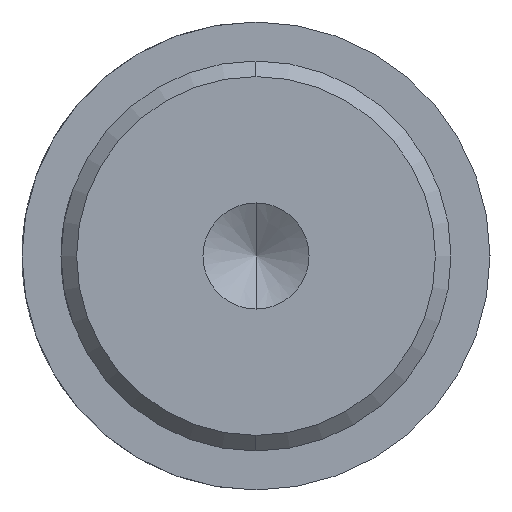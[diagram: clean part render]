
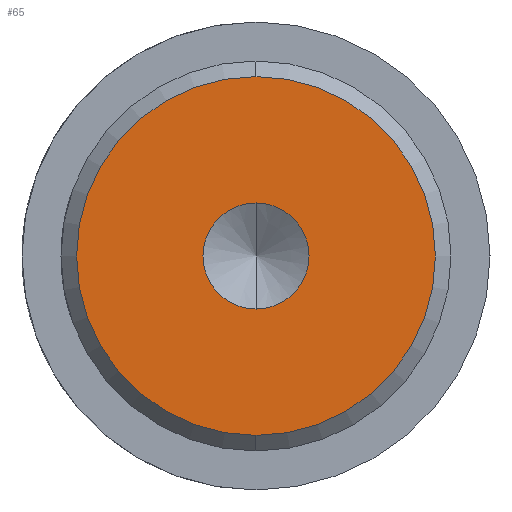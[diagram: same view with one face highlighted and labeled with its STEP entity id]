
A CAD part, left-side view. The second image highlights one B-rep face of the part: STEP entity #65.
In plain terms, the highlighted planar face has unit normal (-1, 0, 0).
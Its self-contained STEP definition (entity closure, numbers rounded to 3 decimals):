
#65 = ADVANCED_FACE ( 'NONE', ( #155, #153 ), #207, .T. ) ;
#67 = ORIENTED_EDGE ( 'NONE', *, *, #86, .F. ) ;
#68 = EDGE_LOOP ( 'NONE', ( #85, #72 ) ) ;
#69 = ORIENTED_EDGE ( 'NONE', *, *, #1170, .F. ) ;
#70 = EDGE_CURVE ( 'NONE', #932, #929, #204, .T. ) ;
#72 = ORIENTED_EDGE ( 'NONE', *, *, #930, .T. ) ;
#85 = ORIENTED_EDGE ( 'NONE', *, *, #70, .T. ) ;
#86 = EDGE_CURVE ( 'NONE', #1167, #1163, #208, .T. ) ;
#87 = EDGE_LOOP ( 'NONE', ( #67, #69 ) ) ;
#153 = FACE_OUTER_BOUND ( 'NONE', #68, .T. ) ;
#154 = AXIS2_PLACEMENT_3D ( 'NONE', #164, #163, #203 ) ;
#155 = FACE_BOUND ( 'NONE', #87, .T. ) ;
#158 = AXIS2_PLACEMENT_3D ( 'NONE', #176, #201, #200 ) ;
#163 = DIRECTION ( 'NONE',  ( -1., 0., 0. ) ) ;
#164 = CARTESIAN_POINT ( 'NONE',  ( 0., 0., 0. ) ) ;
#176 = CARTESIAN_POINT ( 'NONE',  ( 0., 0., 0. ) ) ;
#195 = AXIS2_PLACEMENT_3D ( 'NONE', #276, #275, #274 ) ;
#200 = DIRECTION ( 'NONE',  ( 0., 0., 1. ) ) ;
#201 = DIRECTION ( 'NONE',  ( -1., 0., 0. ) ) ;
#203 = DIRECTION ( 'NONE',  ( 0., 0., 1. ) ) ;
#204 = CIRCLE ( 'NONE', #158, 11.5 ) ;
#207 = PLANE ( 'NONE',  #154 ) ;
#208 = CIRCLE ( 'NONE', #195, 3.4 ) ;
#274 = DIRECTION ( 'NONE',  ( 0., 0., 1. ) ) ;
#275 = DIRECTION ( 'NONE',  ( -1., 0., 0. ) ) ;
#276 = CARTESIAN_POINT ( 'NONE',  ( 0., 0., 0. ) ) ;
#325 = CARTESIAN_POINT ( 'NONE',  ( 0., 0., 11.5 ) ) ;
#326 = DIRECTION ( 'NONE',  ( 0., 0., 1. ) ) ;
#327 = DIRECTION ( 'NONE',  ( -1., 0., 0. ) ) ;
#328 = CARTESIAN_POINT ( 'NONE',  ( 0., 0., 0. ) ) ;
#329 = AXIS2_PLACEMENT_3D ( 'NONE', #328, #327, #326 ) ;
#339 = CIRCLE ( 'NONE', #329, 11.5 ) ;
#375 = CARTESIAN_POINT ( 'NONE',  ( 0., 0., -11.5 ) ) ;
#761 = CIRCLE ( 'NONE', #805, 3.4 ) ;
#768 = CARTESIAN_POINT ( 'NONE',  ( 0., 0., -3.4 ) ) ;
#773 = CARTESIAN_POINT ( 'NONE',  ( 0., 0., 3.4 ) ) ;
#803 = DIRECTION ( 'NONE',  ( 0., 0., 1. ) ) ;
#804 = DIRECTION ( 'NONE',  ( -1., 0., 0. ) ) ;
#805 = AXIS2_PLACEMENT_3D ( 'NONE', #809, #804, #803 ) ;
#809 = CARTESIAN_POINT ( 'NONE',  ( 0., 0., 0. ) ) ;
#929 = VERTEX_POINT ( 'NONE', #325 ) ;
#930 = EDGE_CURVE ( 'NONE', #929, #932, #339, .T. ) ;
#932 = VERTEX_POINT ( 'NONE', #375 ) ;
#1163 = VERTEX_POINT ( 'NONE', #768 ) ;
#1167 = VERTEX_POINT ( 'NONE', #773 ) ;
#1170 = EDGE_CURVE ( 'NONE', #1163, #1167, #761, .T. ) ;
